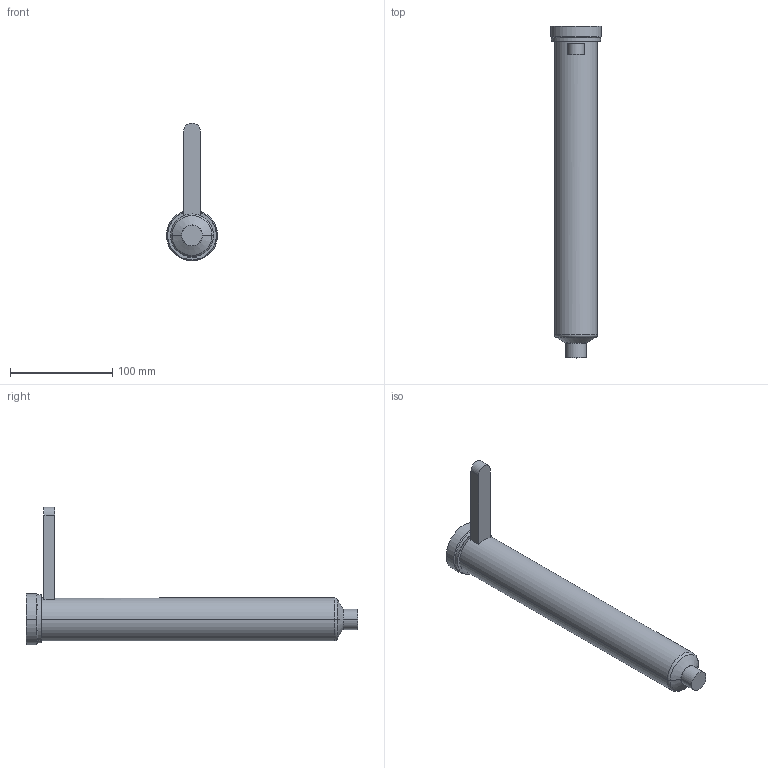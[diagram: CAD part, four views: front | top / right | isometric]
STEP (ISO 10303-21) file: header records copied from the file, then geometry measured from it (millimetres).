
FILE_DESCRIPTION((''),'2;1');
FILE_NAME('EO16_VG-ST_ESG_300_COT','2024-02-19T12:59:19',('sundharh'),(''),'CREO PARAMETRIC BY PTC INC, 2023154','CREO PARAMETRIC BY PTC INC, 2023154','');
FILE_SCHEMA(('CONFIG_CONTROL_DESIGN'));
Length unit declared in the file: millimetre
Products named in the file (1): EO16_VG-ST_ESG_300_COT
Bounding box: 50 x 325 x 135 mm (x, y, z)
Volume: 453419.9 mm3; surface area: 49963.6 mm2
Topology: 1 solids, 1 shells, 31 faces, 67 edges, 40 vertices
Faces by surface type: cylinder 11, plane 9, torus 7, cone 4
Entity records: 967 total; most frequent: CARTESIAN_POINT 234, DIRECTION 159, ORIENTED_EDGE 134, AXIS2_PLACEMENT_3D 67, EDGE_CURVE 67, VERTEX_POINT 40, CIRCLE 36, EDGE_LOOP 33
